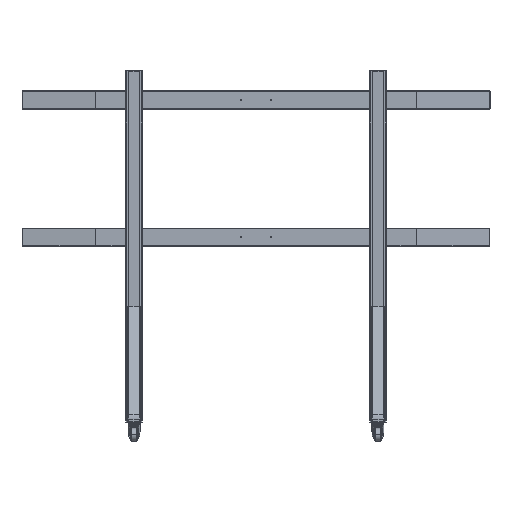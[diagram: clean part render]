
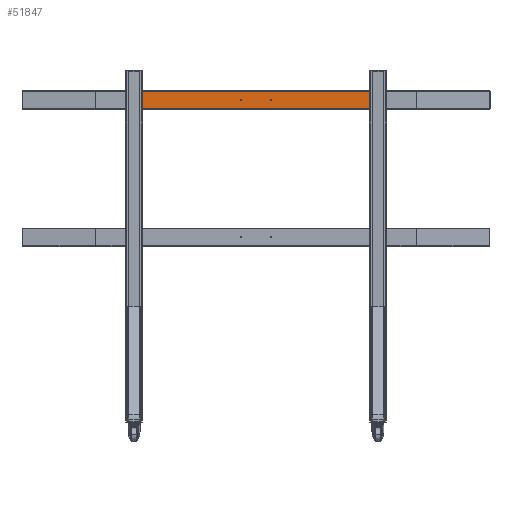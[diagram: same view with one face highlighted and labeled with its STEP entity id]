
A CAD part, top view. The second image highlights one B-rep face of the part: STEP entity #51847.
In plain terms, the highlighted planar face has unit normal (0, 0, 1).
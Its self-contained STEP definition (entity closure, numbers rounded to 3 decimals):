
#215 = CARTESIAN_POINT ( 'NONE',  ( -1460., 178.75, 116.2 ) ) ;
#580 = DIRECTION ( 'NONE',  ( 0., 0., 1. ) ) ;
#987 = CARTESIAN_POINT ( 'NONE',  ( -1460., 178.75, 116.2 ) ) ;
#1097 = CARTESIAN_POINT ( 'NONE',  ( -826.65, 135.75, 116.2 ) ) ;
#1488 = CARTESIAN_POINT ( 'NONE',  ( -975., 135.75, 116.2 ) ) ;
#2593 = CIRCLE ( 'NONE', #45491, 1.65 ) ;
#5190 = CARTESIAN_POINT ( 'NONE',  ( -1460., 178.75, 116.2 ) ) ;
#5641 = CARTESIAN_POINT ( 'NONE',  ( -975., 135.75, 116.2 ) ) ;
#5662 = AXIS2_PLACEMENT_3D ( 'NONE', #47684, #43192, #38706 ) ;
#6566 = CARTESIAN_POINT ( 'NONE',  ( -340., 178.75, 116.2 ) ) ;
#6869 = FACE_BOUND ( 'NONE', #17835, .T. ) ;
#6979 = B_SPLINE_CURVE_WITH_KNOTS ( 'NONE', 3,
 ( #215, #7997, #36058, #35185 ),
 .UNSPECIFIED., .F., .F.,
 ( 4, 4 ),
 ( 0., 1. ),
 .UNSPECIFIED. ) ;
#7163 = DIRECTION ( 'NONE',  ( 0., 1., 0. ) ) ;
#7997 = CARTESIAN_POINT ( 'NONE',  ( -1086.667, 178.75, 116.2 ) ) ;
#10221 = CARTESIAN_POINT ( 'NONE',  ( -1086.667, 92.75, 116.2 ) ) ;
#11928 = CARTESIAN_POINT ( 'NONE',  ( -340., 150.083, 116.2 ) ) ;
#12534 = B_SPLINE_CURVE_WITH_KNOTS ( 'NONE', 3,
 ( #29275, #39128, #11928, #6566 ),
 .UNSPECIFIED., .F., .F.,
 ( 4, 4 ),
 ( 0., 1. ),
 .UNSPECIFIED. ) ;
#13859 = CARTESIAN_POINT ( 'NONE',  ( -1460., 92.75, 116.2 ) ) ;
#16896 = DIRECTION ( 'NONE',  ( 1., 0., 0. ) ) ;
#17635 = B_SPLINE_CURVE_WITH_KNOTS ( 'NONE', 3,
 ( #13859, #51187, #42223, #5190 ),
 .UNSPECIFIED., .F., .F.,
 ( 4, 4 ),
 ( 0., 1. ),
 .UNSPECIFIED. ) ;
#17835 = EDGE_LOOP ( 'NONE', ( #51833, #56736 ) ) ;
#18194 = DIRECTION ( 'NONE',  ( 1., 0., 0. ) ) ;
#19137 = CARTESIAN_POINT ( 'NONE',  ( -976.65, 135.75, 116.2 ) ) ;
#19166 = CARTESIAN_POINT ( 'NONE',  ( -713.333, 92.75, 116.2 ) ) ;
#19677 = DIRECTION ( 'NONE',  ( 1., 0., 0. ) ) ;
#21670 = DIRECTION ( 'NONE',  ( 0., 0., 1. ) ) ;
#22714 = AXIS2_PLACEMENT_3D ( 'NONE', #1488, #46896, #19677 ) ;
#23796 = EDGE_LOOP ( 'NONE', ( #45862, #39722, #49077, #38897 ) ) ;
#23971 = VERTEX_POINT ( 'NONE', #24305 ) ;
#24030 = VERTEX_POINT ( 'NONE', #52744 ) ;
#24305 = CARTESIAN_POINT ( 'NONE',  ( -973.35, 135.75, 116.2 ) ) ;
#24564 = VERTEX_POINT ( 'NONE', #46251 ) ;
#25060 = FACE_OUTER_BOUND ( 'NONE', #23796, .T. ) ;
#27135 = CARTESIAN_POINT ( 'NONE',  ( -823.35, 135.75, 116.2 ) ) ;
#28230 = VERTEX_POINT ( 'NONE', #987 ) ;
#28566 = CIRCLE ( 'NONE', #5662, 1.65 ) ;
#29275 = CARTESIAN_POINT ( 'NONE',  ( -340., 92.75, 116.2 ) ) ;
#30221 = B_SPLINE_CURVE_WITH_KNOTS ( 'NONE', 3,
 ( #32926, #10221, #19166, #33221 ),
 .UNSPECIFIED., .F., .F.,
 ( 4, 4 ),
 ( 0., 1. ),
 .UNSPECIFIED. ) ;
#31861 = EDGE_CURVE ( 'NONE', #54168, #23971, #40884, .T. ) ;
#32926 = CARTESIAN_POINT ( 'NONE',  ( -1460., 92.75, 116.2 ) ) ;
#33221 = CARTESIAN_POINT ( 'NONE',  ( -340., 92.75, 116.2 ) ) ;
#33317 = EDGE_CURVE ( 'NONE', #28230, #24564, #6979, .T. ) ;
#33597 = EDGE_CURVE ( 'NONE', #45303, #28230, #17635, .T. ) ;
#34558 = EDGE_CURVE ( 'NONE', #36362, #50103, #28566, .T. ) ;
#35185 = CARTESIAN_POINT ( 'NONE',  ( -340., 178.75, 116.2 ) ) ;
#35326 = EDGE_CURVE ( 'NONE', #23971, #54168, #38456, .T. ) ;
#36058 = CARTESIAN_POINT ( 'NONE',  ( -713.333, 178.75, 116.2 ) ) ;
#36166 = EDGE_CURVE ( 'NONE', #24030, #24564, #12534, .T. ) ;
#36362 = VERTEX_POINT ( 'NONE', #27135 ) ;
#37949 = CARTESIAN_POINT ( 'NONE',  ( -340., 90.75, 116.2 ) ) ;
#38456 = CIRCLE ( 'NONE', #51818, 1.65 ) ;
#38706 = DIRECTION ( 'NONE',  ( 1., 0., 0. ) ) ;
#38897 = ORIENTED_EDGE ( 'NONE', *, *, #33317, .F. ) ;
#39128 = CARTESIAN_POINT ( 'NONE',  ( -340., 121.417, 116.2 ) ) ;
#39722 = ORIENTED_EDGE ( 'NONE', *, *, #45409, .T. ) ;
#40884 = CIRCLE ( 'NONE', #22714, 1.65 ) ;
#42223 = CARTESIAN_POINT ( 'NONE',  ( -1460., 150.083, 116.2 ) ) ;
#42428 = DIRECTION ( 'NONE',  ( 0., 0., 1. ) ) ;
#43192 = DIRECTION ( 'NONE',  ( 0., 0., 1. ) ) ;
#43502 = CARTESIAN_POINT ( 'NONE',  ( -825., 135.75, 116.2 ) ) ;
#45303 = VERTEX_POINT ( 'NONE', #58719 ) ;
#45409 = EDGE_CURVE ( 'NONE', #45303, #24030, #30221, .T. ) ;
#45491 = AXIS2_PLACEMENT_3D ( 'NONE', #43502, #21670, #16896 ) ;
#45862 = ORIENTED_EDGE ( 'NONE', *, *, #33597, .F. ) ;
#46251 = CARTESIAN_POINT ( 'NONE',  ( -340., 178.75, 116.2 ) ) ;
#46896 = DIRECTION ( 'NONE',  ( 0., 0., 1. ) ) ;
#46909 = FACE_BOUND ( 'NONE', #50100, .T. ) ;
#47684 = CARTESIAN_POINT ( 'NONE',  ( -825., 135.75, 116.2 ) ) ;
#49077 = ORIENTED_EDGE ( 'NONE', *, *, #36166, .T. ) ;
#49778 = ORIENTED_EDGE ( 'NONE', *, *, #31861, .F. ) ;
#50100 = EDGE_LOOP ( 'NONE', ( #51343, #49778 ) ) ;
#50103 = VERTEX_POINT ( 'NONE', #1097 ) ;
#51187 = CARTESIAN_POINT ( 'NONE',  ( -1460., 121.417, 116.2 ) ) ;
#51343 = ORIENTED_EDGE ( 'NONE', *, *, #35326, .F. ) ;
#51818 = AXIS2_PLACEMENT_3D ( 'NONE', #5641, #580, #18194 ) ;
#51833 = ORIENTED_EDGE ( 'NONE', *, *, #34558, .F. ) ;
#51847 = ADVANCED_FACE ( 'NONE', ( #6869, #46909, #25060 ), #52607, .T. ) ;
#52607 = PLANE ( 'NONE',  #55005 ) ;
#52744 = CARTESIAN_POINT ( 'NONE',  ( -340., 92.75, 116.2 ) ) ;
#54168 = VERTEX_POINT ( 'NONE', #19137 ) ;
#55005 = AXIS2_PLACEMENT_3D ( 'NONE', #37949, #42428, #7163 ) ;
#55884 = EDGE_CURVE ( 'NONE', #50103, #36362, #2593, .T. ) ;
#56736 = ORIENTED_EDGE ( 'NONE', *, *, #55884, .F. ) ;
#58719 = CARTESIAN_POINT ( 'NONE',  ( -1460., 92.75, 116.2 ) ) ;
